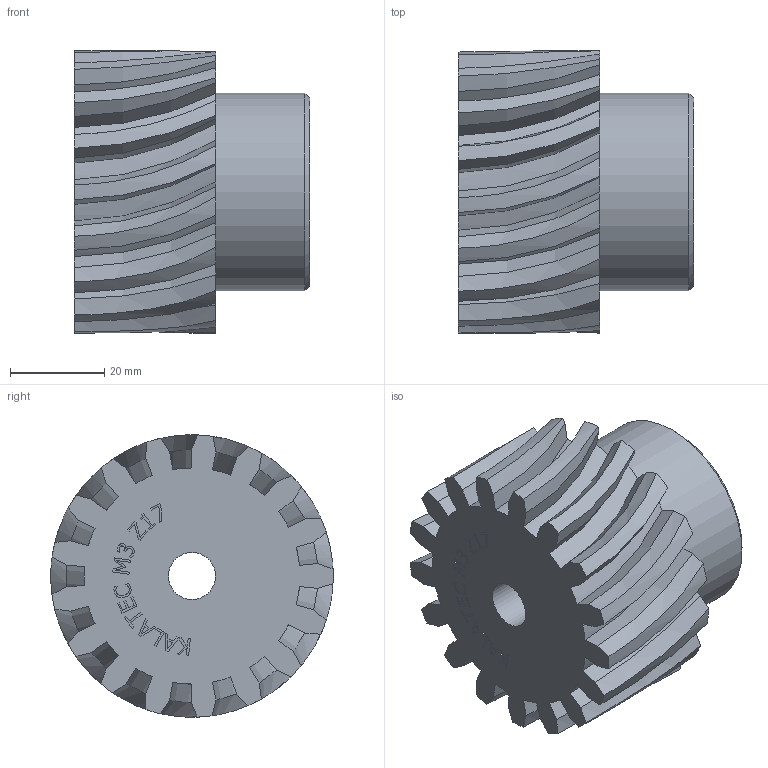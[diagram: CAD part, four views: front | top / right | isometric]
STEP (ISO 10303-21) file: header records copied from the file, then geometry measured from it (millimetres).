
FILE_DESCRIPTION(/* description */ (''),/* implementation_level */ '2;1');
FILE_NAME(/* name */ '\\JOINapp01\Profiles\martins\Desktop\ENGRENAGEM\ENG DENTE HELICOIDAL M3 Z17.step',/* time_stamp */ '2018-07-03T16:35:29-03:00',/* author */ ('martins'),/* organization */ (''),/* preprocessor_version */ 'ST-DEVELOPER v16.1',/* originating_system */ 'Autodesk Inventor 2016',/* authorisation */ '');
FILE_SCHEMA (('AUTOMOTIVE_DESIGN { 1 0 10303 214 3 1 1 }'));
Length unit declared in the file: millimetre
Products named in the file (1): ENG DENTE HELICOIDAL M3 Z17
Bounding box: 50 x 59.99 x 59.99 mm (x, y, z)
Volume: 90742.2 mm3; surface area: 19813.1 mm2
Topology: 1 solids, 1 shells, 269 faces, 761 edges, 507 vertices
Faces by surface type: plane 128, bspline 121, cylinder 19, cone 1
Full cylindrical faces by diameter (mm): 10 x1, 42 x1
Entity records: 9401 total; most frequent: CARTESIAN_POINT 2915, ORIENTED_EDGE 1516, DIRECTION 1091, EDGE_CURVE 758, LINE 511, VECTOR 511, VERTEX_POINT 507, AXIS2_PLACEMENT_3D 290
